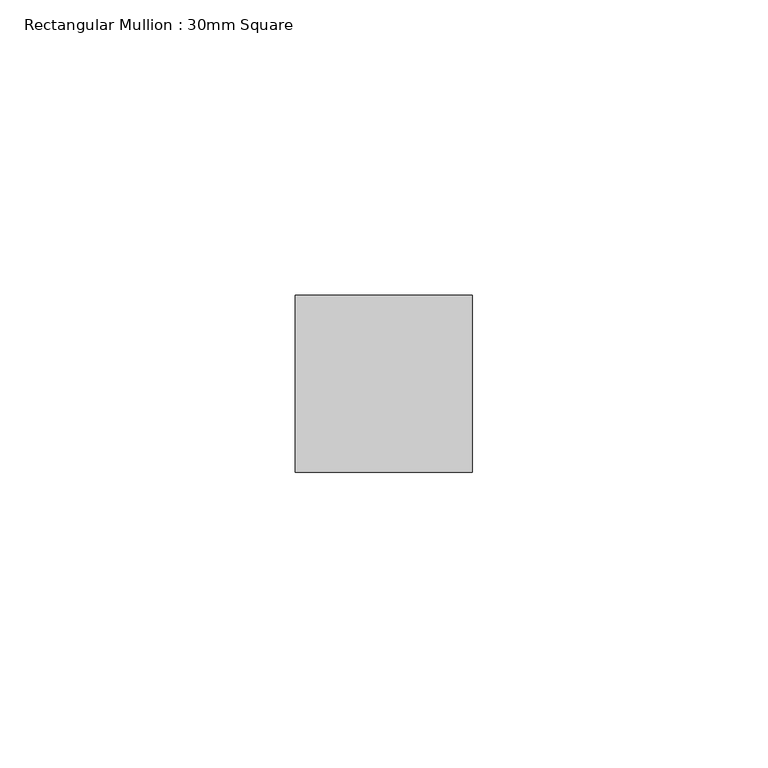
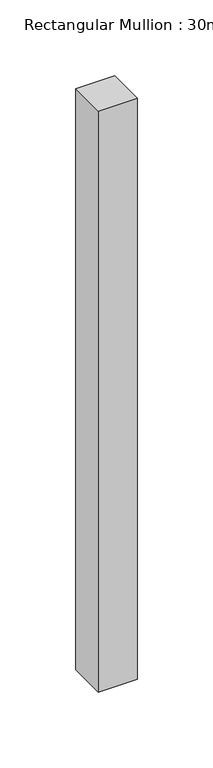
"""IFC4 building model written with IfcOpenShell, lengths in millimetres: member geometry, Rectangular Mullion : 30mm Square."""

from ifc_helpers import new_model, si_unit, frame, origin, place, context, project, spatial, polyline, outline, extrude, source, transform, mapped, element, save


def rectangular_mullion_30mm_square_39a4a5b0(model_context):
    return source(origin(), model_context, "Body", "SweptSolid", [
        extrude(outline(polyline([(0.0, 15.0), (0.0, -15.0), (-30.0, -15.0), (-30.0, 15.0), (0.0, 15.0)])), frame((0.0, 0.0, -470.0), z_axis=(0.0, 0.0, 1.0), x_axis=(1.0, 0.0, 0.0)), (0.0, 0.0, 1.0), 470.0),
    ])


if __name__ == "__main__":
    model = new_model("IFC4")
    model_context = context("Model", 3, world=origin())
    ifc_project = project(units=[si_unit("LENGTHUNIT", "METRE", prefix="MILLI")], contexts=[model_context])
    site = spatial("IfcSite", under=ifc_project)
    building = spatial("IfcBuilding", under=site)
    placement = place(None, origin())
    rectangular_mullion_30mm_square_shape = rectangular_mullion_30mm_square_39a4a5b0(model_context)
    element("IfcMember", 1, ObjectType="Rectangular Mullion : 30mm Square", at=placement, inside=building, context=model_context, shape_type="MappedRepresentation", body=[
        mapped(rectangular_mullion_30mm_square_shape, transform((0.0, 0.0, 0.0), x_axis=(1.0, 0.0, 0.0), y_axis=(0.0, 1.0, 0.0), z_axis=(0.0, 0.0, 1.0))),
    ])
    save(model, "model.ifc")
